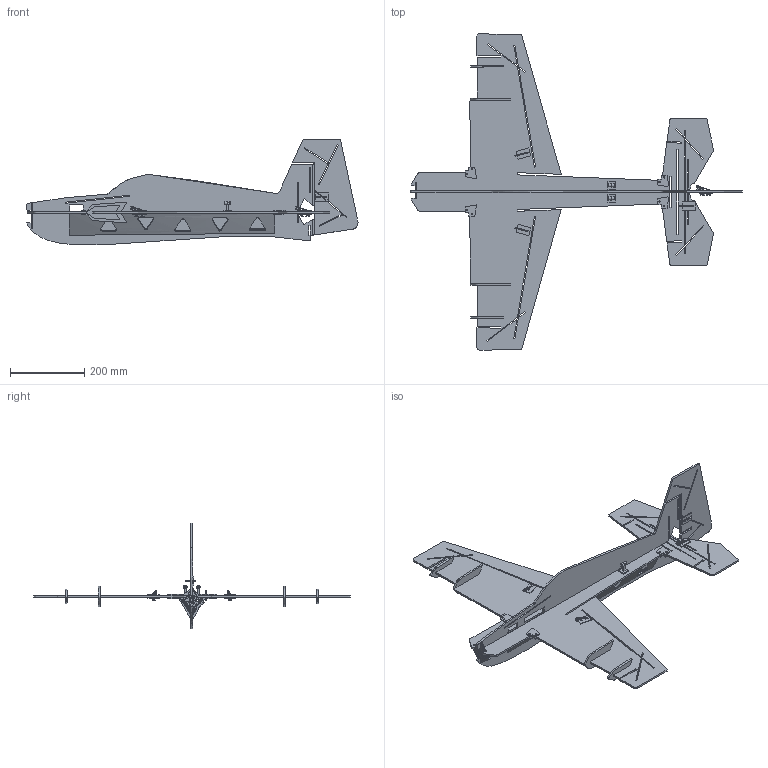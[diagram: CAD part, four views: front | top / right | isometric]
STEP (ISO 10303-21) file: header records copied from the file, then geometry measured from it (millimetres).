
FILE_DESCRIPTION(/* description */ (''),/* implementation_level */ '2;1');
FILE_NAME(/* name */ 'flatfoamy.step',/* time_stamp */ '2026-02-28T16:24:01-05:00',/* author */ (''),/* organization */ (''),/* preprocessor_version */ 'ST-DEVELOPER v20.1',/* originating_system */ 'Autodesk Translation Framework v14.24.0.0',/* authorisation */ '');
FILE_SCHEMA (('AUTOMOTIVE_DESIGN { 1 0 10303 214 3 1 1 }'));
Products named in the file (9): flatfoamy; firewall; Control_Horn v2(Mirror); Control_Horn; edge protector; edge protector(Mirror); edge protector(Mirror)(Mirror); PushRodGuide; PushRodGuide(Mirror)
Assembly tree (11 placements, depth 2):
  flatfoamy
    firewall
    Control_Horn  x3
    Control_Horn v2(Mirror)
    edge protector
    edge protector(Mirror)  x2
    edge protector(Mirror)(Mirror)
    PushRodGuide
    PushRodGuide(Mirror)
Bounding box: 892.36 x 850 x 284.84 mm (x, y, z)
Volume: 2143504.2 mm3; surface area: 1001099.3 mm2
Topology: 37 solids, 38 shells, 8161 faces, 14063 edges, 5907 vertices
Faces by surface type: plane 8051, cylinder 94, bspline 16
Full cylindrical faces by diameter (mm): 3.5 x26, 3.606 x1, 4 x4
Entity records: 125012 total; most frequent: CARTESIAN_POINT 22269, DIRECTION 21174, ORIENTED_EDGE 19752, EDGE_CURVE 9876, LINE 9238, VECTOR 9238, AXIS2_PLACEMENT_3D 5968, EDGE_LOOP 5588
